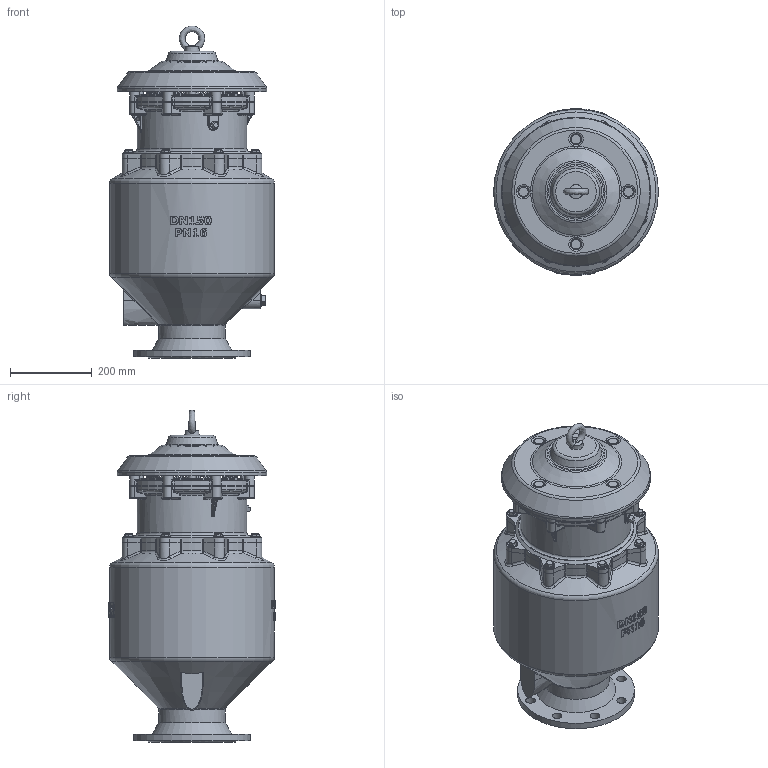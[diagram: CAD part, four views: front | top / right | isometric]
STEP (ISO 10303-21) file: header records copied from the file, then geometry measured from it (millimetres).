
FILE_DESCRIPTION(('STEP AP203'), '1');
FILE_NAME('Âîçäóøíûé êëàïàí FLOWJET SR', '', ('UNSPECIFIED'), ('UNSPECIFIED'), 'C3D Converter', 'C3D Toolkit', '');
FILE_SCHEMA(('CONFIG_CONTROL_DESIGN'));
Length unit declared in the file: millimetre
Assembly tree (54 placements, depth 2):
  (unnamed)
    (unnamed)
    (unnamed)
    (unnamed)
    (unnamed)
    (unnamed)
    (unnamed)
    (unnamed)
    (unnamed)
    (unnamed)
    (unnamed)
    (unnamed)
    (unnamed)  x4
    (unnamed)
    (unnamed)  x4
    (unnamed)  x8
    (unnamed)  x8
    (unnamed)  x8
    (unnamed)  x4
    (unnamed)  x4
    (unnamed)
    (unnamed)
Bounding box: 402 x 406 x 809.9 mm (x, y, z)
Volume: 10009941.8 mm3; surface area: 3289746.8 mm2
Topology: 56 solids, 57 shells, 2184 faces, 5520 edges, 3523 vertices
Faces by surface type: plane 744, cylinder 542, bspline 489, torus 154, extrusion 138, cone 108, sphere 9
Full cylindrical faces by diameter (mm): 7 x8, 7.188 x4, 8 x16, 8.4 x4, 10 x10, 11.026 x8, 12 x48, 13 x10, 14 x4, 15 x2, 16 x29, 18 x6, 19.2 x8, 21.3 x2, 23 x8, 24 x18, 30 x1, 36 x1, 43.858 x1, 144 x1, 150 x2, 162 x1, 219 x1, 221 x1, 232 x1, 234 x4, 238 x5, 243 x1, 250 x2, 255 x1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
Entity records: 137648 total; most frequent: CARTESIAN_POINT 94051, ORIENTED_EDGE 8720, DIRECTION 6512, EDGE_CURVE 4360, VERTEX_POINT 2930, AXIS2_PLACEMENT_3D 2561, EDGE_LOOP 2304, B_SPLINE_CURVE_WITH_KNOTS 1866
